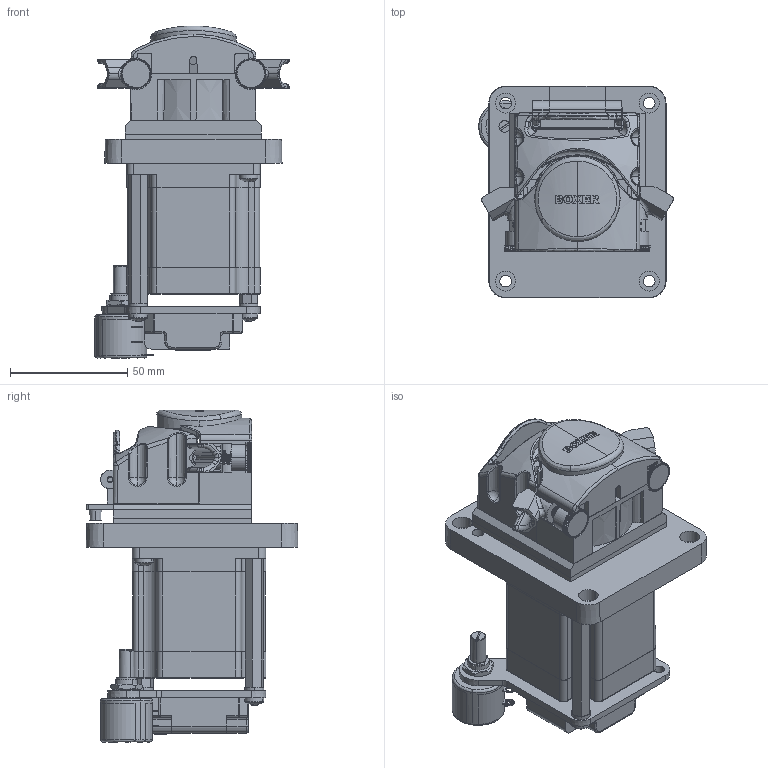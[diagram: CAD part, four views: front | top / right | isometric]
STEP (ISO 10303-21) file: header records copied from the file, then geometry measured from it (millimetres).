
FILE_DESCRIPTION (( 'STEP AP203' ), '1' );
FILE_NAME ('15QQ+ 4Ap.STEP', '2016-07-20T06:44:57', ( '' ), ( '' ), 'SwSTEP 2.0', 'SolidWorks 2014', '' );
FILE_SCHEMA (( 'CONFIG_CONTROL_DESIGN' ));
Length unit declared in the file: millimetre
Products named in the file (1): 15QQ+ 4Ap
Bounding box: 83.02 x 90.43 x 141.73 mm (x, y, z)
Surface area: 81515.7 mm2 (no closed solid volume)
Topology: 0 solids, 44 shells, 1428 faces, 5170 edges, 3629 vertices
Faces by surface type: plane 513, cylinder 427, bspline 274, cone 130, torus 60, sphere 24
Entity records: 74499 total; most frequent: CARTESIAN_POINT 34224, ORIENTED_EDGE 8494, DIRECTION 7540, EDGE_CURVE 5166, VERTEX_POINT 3629, AXIS2_PLACEMENT_3D 2667, LINE 2206, VECTOR 2206
